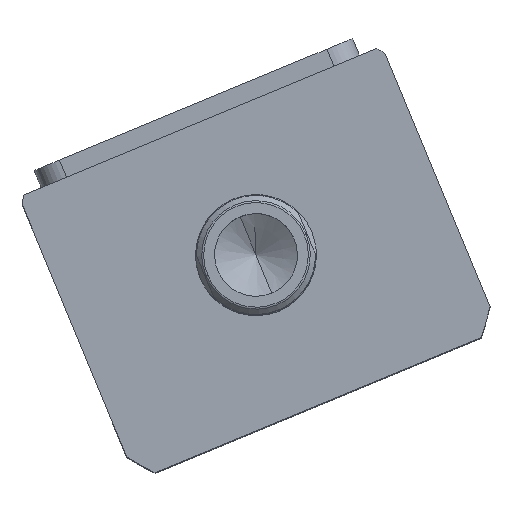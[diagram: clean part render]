
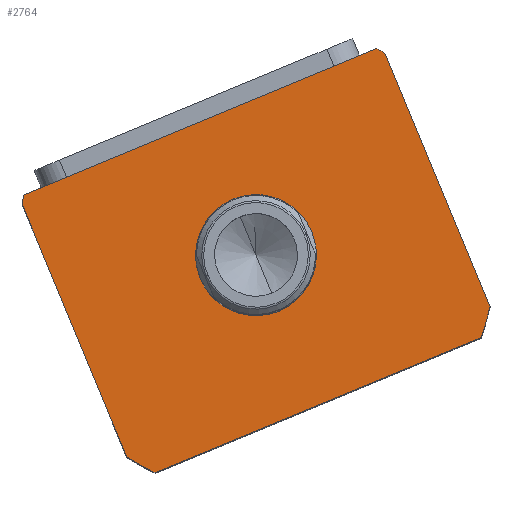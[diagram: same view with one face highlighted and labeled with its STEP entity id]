
A CAD part, top view. The second image highlights one B-rep face of the part: STEP entity #2764.
In plain terms, the highlighted planar face has unit normal (0, 0, 1) as drawn and (0, 0, -1) by its records, which use the part's own axes.
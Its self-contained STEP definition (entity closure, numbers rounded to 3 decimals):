
#366 = ORIENTED_EDGE ( 'NONE', *, *, #2948, .F. ) ;
#367 = EDGE_CURVE ( 'NONE', #11640, #17252, #12672, .T. ) ;
#788 = CIRCLE ( 'NONE', #1195, 69.5 ) ;
#810 = CARTESIAN_POINT ( 'NONE',  ( -57., -99.262, 0. ) ) ;
#1182 = CARTESIAN_POINT ( 'NONE',  ( 0., -59.497, 0. ) ) ;
#1195 = AXIS2_PLACEMENT_3D ( 'NONE', #15912, #17746, #14893 ) ;
#1247 = LINE ( 'NONE', #14673, #8489 ) ;
#1360 = DIRECTION ( 'NONE',  ( 0., 0., 1. ) ) ;
#1526 = ORIENTED_EDGE ( 'NONE', *, *, #367, .F. ) ;
#1617 = EDGE_CURVE ( 'NONE', #14987, #3284, #788, .T. ) ;
#1854 = CARTESIAN_POINT ( 'NONE',  ( -57., -17.497, 0. ) ) ;
#2119 = ORIENTED_EDGE ( 'NONE', *, *, #1617, .F. ) ;
#2485 = AXIS2_PLACEMENT_3D ( 'NONE', #2818, #12916, #4284 ) ;
#2654 = DIRECTION ( 'NONE',  ( 1., 0., 0. ) ) ;
#2764 = ADVANCED_FACE ( 'NONE', ( #3962, #7375 ), #17415, .F. ) ;
#2818 = CARTESIAN_POINT ( 'NONE',  ( 0., -59.497, 0. ) ) ;
#2948 = EDGE_CURVE ( 'NONE', #16320, #14987, #14119, .T. ) ;
#3284 = VERTEX_POINT ( 'NONE', #12336 ) ;
#3315 = CIRCLE ( 'NONE', #15039, 17.5 ) ;
#3583 = CIRCLE ( 'NONE', #12575, 69.5 ) ;
#3655 = CARTESIAN_POINT ( 'NONE',  ( 57., -19.732, 0. ) ) ;
#3778 = EDGE_CURVE ( 'NONE', #8199, #17769, #3315, .T. ) ;
#3851 = VERTEX_POINT ( 'NONE', #9078 ) ;
#3962 = FACE_BOUND ( 'NONE', #14432, .T. ) ;
#4284 = DIRECTION ( 'NONE',  ( 1., 0., 0. ) ) ;
#4607 = CARTESIAN_POINT ( 'NONE',  ( 0., -59.497, 0. ) ) ;
#4679 = DIRECTION ( 'NONE',  ( 1., 0., 0. ) ) ;
#5254 = VERTEX_POINT ( 'NONE', #10051 ) ;
#5416 = CIRCLE ( 'NONE', #2485, 69.5 ) ;
#5937 = CARTESIAN_POINT ( 'NONE',  ( 0., 0., 0. ) ) ;
#6062 = DIRECTION ( 'NONE',  ( 1., 0., 0. ) ) ;
#6263 = CARTESIAN_POINT ( 'NONE',  ( -57., -19.732, 0. ) ) ;
#6269 = EDGE_LOOP ( 'NONE', ( #7629, #11662, #2119, #366, #6354, #1526, #12684, #18408 ) ) ;
#6354 = ORIENTED_EDGE ( 'NONE', *, *, #12868, .F. ) ;
#6367 = VECTOR ( 'NONE', #11716, 1000. ) ;
#6984 = CARTESIAN_POINT ( 'NONE',  ( 0., -59.497, 0. ) ) ;
#7375 = FACE_OUTER_BOUND ( 'NONE', #6269, .T. ) ;
#7383 = DIRECTION ( 'NONE',  ( 0., 0., 1. ) ) ;
#7629 = ORIENTED_EDGE ( 'NONE', *, *, #7797, .F. ) ;
#7756 = ORIENTED_EDGE ( 'NONE', *, *, #3778, .T. ) ;
#7797 = EDGE_CURVE ( 'NONE', #9739, #5254, #5416, .T. ) ;
#8199 = VERTEX_POINT ( 'NONE', #13733 ) ;
#8425 = DIRECTION ( 'NONE',  ( 1., 0., 0. ) ) ;
#8489 = VECTOR ( 'NONE', #11902, 1000. ) ;
#8558 = CIRCLE ( 'NONE', #10649, 69.5 ) ;
#9078 = CARTESIAN_POINT ( 'NONE',  ( -55.374, -17.497, 0. ) ) ;
#9698 = CARTESIAN_POINT ( 'NONE',  ( 17.5, -59.497, 0. ) ) ;
#9739 = VERTEX_POINT ( 'NONE', #3655 ) ;
#10027 = CARTESIAN_POINT ( 'NONE',  ( 0., -59.497, 0. ) ) ;
#10051 = CARTESIAN_POINT ( 'NONE',  ( 55.374, -17.497, 0. ) ) ;
#10417 = CARTESIAN_POINT ( 'NONE',  ( -57., -106.497, 0. ) ) ;
#10649 = AXIS2_PLACEMENT_3D ( 'NONE', #1182, #11306, #2654 ) ;
#10992 = ORIENTED_EDGE ( 'NONE', *, *, #15275, .T. ) ;
#11306 = DIRECTION ( 'NONE',  ( 0., 0., 1. ) ) ;
#11480 = DIRECTION ( 'NONE',  ( 1., 0., 0. ) ) ;
#11640 = VERTEX_POINT ( 'NONE', #6263 ) ;
#11662 = ORIENTED_EDGE ( 'NONE', *, *, #14826, .F. ) ;
#11716 = DIRECTION ( 'NONE',  ( 0., -1., 0. ) ) ;
#11902 = DIRECTION ( 'NONE',  ( 0., 1., 0. ) ) ;
#12142 = CARTESIAN_POINT ( 'NONE',  ( 51.198, -106.497, 0. ) ) ;
#12336 = CARTESIAN_POINT ( 'NONE',  ( 57., -99.262, 0. ) ) ;
#12575 = AXIS2_PLACEMENT_3D ( 'NONE', #6984, #17078, #8425 ) ;
#12672 = LINE ( 'NONE', #1854, #6367 ) ;
#12684 = ORIENTED_EDGE ( 'NONE', *, *, #18318, .F. ) ;
#12868 = EDGE_CURVE ( 'NONE', #17252, #16320, #8558, .T. ) ;
#12916 = DIRECTION ( 'NONE',  ( 0., 0., 1. ) ) ;
#13077 = LINE ( 'NONE', #16994, #13961 ) ;
#13470 = AXIS2_PLACEMENT_3D ( 'NONE', #5937, #7383, #17484 ) ;
#13595 = EDGE_CURVE ( 'NONE', #5254, #3851, #13077, .T. ) ;
#13733 = CARTESIAN_POINT ( 'NONE',  ( -17.5, -59.497, 0. ) ) ;
#13961 = VECTOR ( 'NONE', #15561, 1000. ) ;
#14119 = LINE ( 'NONE', #10417, #17548 ) ;
#14359 = CARTESIAN_POINT ( 'NONE',  ( -51.198, -106.497, 0. ) ) ;
#14432 = EDGE_LOOP ( 'NONE', ( #10992, #7756 ) ) ;
#14673 = CARTESIAN_POINT ( 'NONE',  ( 57., -17.497, 0. ) ) ;
#14702 = DIRECTION ( 'NONE',  ( 0., 0., 1. ) ) ;
#14826 = EDGE_CURVE ( 'NONE', #3284, #9739, #1247, .T. ) ;
#14893 = DIRECTION ( 'NONE',  ( 1., 0., 0. ) ) ;
#14987 = VERTEX_POINT ( 'NONE', #12142 ) ;
#15039 = AXIS2_PLACEMENT_3D ( 'NONE', #4607, #14702, #6062 ) ;
#15275 = EDGE_CURVE ( 'NONE', #17769, #8199, #18685, .T. ) ;
#15561 = DIRECTION ( 'NONE',  ( -1., 0., 0. ) ) ;
#15912 = CARTESIAN_POINT ( 'NONE',  ( 0., -59.497, 0. ) ) ;
#16320 = VERTEX_POINT ( 'NONE', #14359 ) ;
#16632 = AXIS2_PLACEMENT_3D ( 'NONE', #10027, #1360, #11480 ) ;
#16994 = CARTESIAN_POINT ( 'NONE',  ( -57., -17.497, 0. ) ) ;
#17078 = DIRECTION ( 'NONE',  ( 0., 0., 1. ) ) ;
#17252 = VERTEX_POINT ( 'NONE', #810 ) ;
#17415 = PLANE ( 'NONE',  #13470 ) ;
#17484 = DIRECTION ( 'NONE',  ( 1., 0., 0. ) ) ;
#17548 = VECTOR ( 'NONE', #4679, 1000. ) ;
#17746 = DIRECTION ( 'NONE',  ( 0., 0., 1. ) ) ;
#17769 = VERTEX_POINT ( 'NONE', #9698 ) ;
#18318 = EDGE_CURVE ( 'NONE', #3851, #11640, #3583, .T. ) ;
#18408 = ORIENTED_EDGE ( 'NONE', *, *, #13595, .F. ) ;
#18685 = CIRCLE ( 'NONE', #16632, 17.5 ) ;
